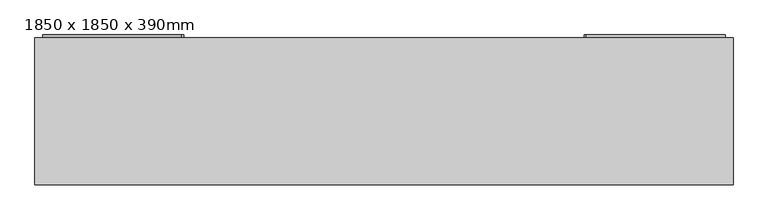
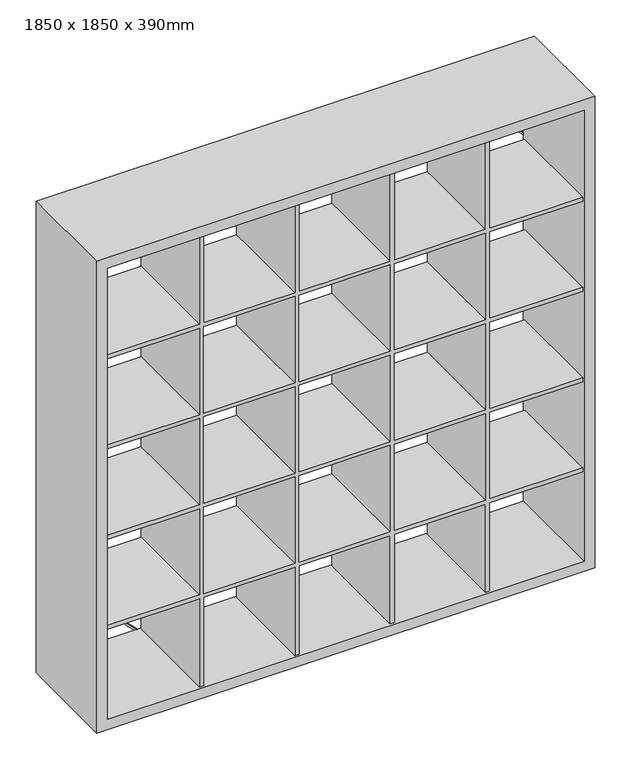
"""IFC4 building model written with IfcOpenShell, lengths in millimetres: furniture geometry, Knihovna : 1850 x 1850 x 390mm."""

from ifc_helpers import new_model, si_unit, frame, origin, place, context, project, spatial, polyline, outline, extrude, source, transform, mapped, element, save


def furniture_1850_x_1850_x_390mm_29501710(model_context):
    return source(origin(), model_context, "Body", "SweptSolid", [
        extrude(outline(polyline([(1463.5, -291.4462646), (1463.5, -637.9462646), (1448.5, -637.9462646), (1448.5, -291.4462646), (1109.5, -291.4462646), (1109.5, -637.9462646), (1094.5, -637.9462646), (1094.5, -291.4462646), (755.5, -291.4462646), (755.5, -637.9462646), (740.5, -637.9462646), (740.5, -291.4462646), (401.5, -291.4462646), (401.5, -637.9462646), (386.5, -637.9462646), (386.5, -291.4462646), (40.0, -291.4462646), (40.0, -276.4462646), (386.5, -276.4462646), (386.5, 62.5537354), (40.0, 62.5537354), (40.0, 77.5537354), (386.5, 77.5537354), (386.5, 416.5537354), (40.0, 416.5537354), (40.0, 431.5537354), (386.5, 431.5537354), (386.5, 770.5537354), (40.0, 770.5537354), (40.0, 785.5537354), (386.5, 785.5537354), (386.5, 1132.0537354), (401.5, 1132.0537354), (401.5, 785.5537354), (740.5, 785.5537354), (740.5, 1132.0537354), (755.5, 1132.0537354), (755.5, 785.5537354), (1094.5, 785.5537354), (1094.5, 1132.0537354), (1109.5, 1132.0537354), (1109.5, 785.5537354), (1448.5, 785.5537354), (1448.5, 1132.0537354), (1463.5, 1132.0537354), (1463.5, 785.5537354), (1810.0, 785.5537354), (1810.0, 770.5537354), (1463.5, 770.5537354), (1463.5, 431.5537354), (1810.0, 431.5537354), (1810.0, 416.5537354), (1463.5, 416.5537354), (1463.5, 77.5537354), (1810.0, 77.5537354), (1810.0, 62.5537354), (1463.5, 62.5537354), (1463.5, -276.4462646), (1810.0, -276.4462646), (1810.0, -291.4462646), (1463.5, -291.4462646)]), holes=[polyline([(1448.5, 62.5537354), (1109.5, 62.5537354), (1109.5, -276.4462646), (1448.5, -276.4462646), (1448.5, 62.5537354)]), polyline([(1109.5, 77.5537354), (1448.5, 77.5537354), (1448.5, 416.5537354), (1109.5, 416.5537354), (1109.5, 77.5537354)]), polyline([(1109.5, 431.5537354), (1448.5, 431.5537354), (1448.5, 770.5537354), (1109.5, 770.5537354), (1109.5, 431.5537354)]), polyline([(755.5, 770.5537354), (755.5, 431.5537354), (1094.5, 431.5537354), (1094.5, 770.5537354), (755.5, 770.5537354)]), polyline([(755.5, 416.5537354), (755.5, 77.5537354), (1094.5, 77.5537354), (1094.5, 416.5537354), (755.5, 416.5537354)]), polyline([(755.5, 62.5537354), (755.5, -276.4462646), (1094.5, -276.4462646), (1094.5, 62.5537354), (755.5, 62.5537354)]), polyline([(401.5, -276.4462646), (740.5, -276.4462646), (740.5, 62.5537354), (401.5, 62.5537354), (401.5, -276.4462646)]), polyline([(401.5, 77.5537354), (740.5, 77.5537354), (740.5, 416.5537354), (401.5, 416.5537354), (401.5, 77.5537354)]), polyline([(401.5, 431.5537354), (740.5, 431.5537354), (740.5, 770.5537354), (401.5, 770.5537354), (401.5, 431.5537354)])]), frame((0.0, -257.1082321, 0.0), z_axis=(0.0, 1.0, 0.0), x_axis=(0.0, 0.0, 1.0)), (0.0, 0.0, 1.0), 374.0),
        extrude(outline(polyline([(1850.0, 1172.0537354), (1850.0, -677.9462646), (0.0, -677.9462646), (0.0, 1172.0537354), (1850.0, 1172.0537354)]), holes=[polyline([(1810.0, 1132.0537354), (40.0, 1132.0537354), (40.0, -637.9462646), (1810.0, -637.9462646), (1810.0, 1132.0537354)])]), frame((0.0, -265.1082321, 0.0), z_axis=(0.0, 1.0, 0.0), x_axis=(0.0, 0.0, 1.0)), (0.0, 0.0, 1.0), 390.0),
        extrude(outline(polyline([(0.0, -520.0), (0.0, 0.0), (7.3410518, 0.0), (7.3410518, -520.0), (0.0, -520.0)])), frame((-656.5915383, 124.8917679, 382.7457787), z_axis=(0.7071067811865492, 0.0, 0.7071067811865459), x_axis=(0.0, 1.0, 0.0)), (0.0, 0.0, 1.0), 7.0),
        extrude(outline(polyline([(0.0, -7.0), (0.0, 0.0), (7.3410518, 0.0), (7.3410518, -7.0), (0.0, -7.0)])), frame((778.0537354, 124.8917679, 20.0), z_axis=(0.7071067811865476, 0.0, 0.7071067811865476), x_axis=(0.0, 1.0, 0.0)), (0.0, 0.0, 1.0), 520.0),
        extrude(outline(polyline([(0.0, -7.0), (0.0, 0.0), (7.3410518, 0.0), (7.3410518, -7.0), (0.0, -7.0)])), frame((-656.5915383, 124.8917679, 1467.2542213), z_axis=(0.7071067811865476, 0.0, 0.7071067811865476), x_axis=(0.0, 1.0, 0.0)), (0.0, 0.0, 1.0), 520.0),
        extrude(outline(polyline([(0.0, -520.0), (0.0, 0.0), (7.3410518, 0.0), (7.3410518, -520.0), (0.0, -520.0)])), frame((778.0537354, 124.8917679, 1830.0), z_axis=(0.7071067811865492, 0.0, 0.7071067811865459), x_axis=(0.0, 1.0, 0.0)), (0.0, 0.0, 1.0), 7.0),
    ])


if __name__ == "__main__":
    model = new_model("IFC4")
    model_context = context("Model", 3, world=origin())
    ifc_project = project(units=[si_unit("LENGTHUNIT", "METRE", prefix="MILLI")], contexts=[model_context])
    site = spatial("IfcSite", under=ifc_project)
    building = spatial("IfcBuilding", under=site)
    placement = place(None, origin())
    furniture_1850_x_1850_x_390mm_shape = furniture_1850_x_1850_x_390mm_29501710(model_context)
    element("IfcFurniture", 1, ObjectType="Knihovna : 1850 x 1850 x 390mm", at=placement, inside=building, context=model_context, shape_type="MappedRepresentation", body=[
        mapped(furniture_1850_x_1850_x_390mm_shape, transform((0.0, 0.0, 0.0), x_axis=(1.0, 0.0, 0.0), y_axis=(0.0, 1.0, 0.0), z_axis=(0.0, 0.0, 1.0))),
    ])
    save(model, "model.ifc")
